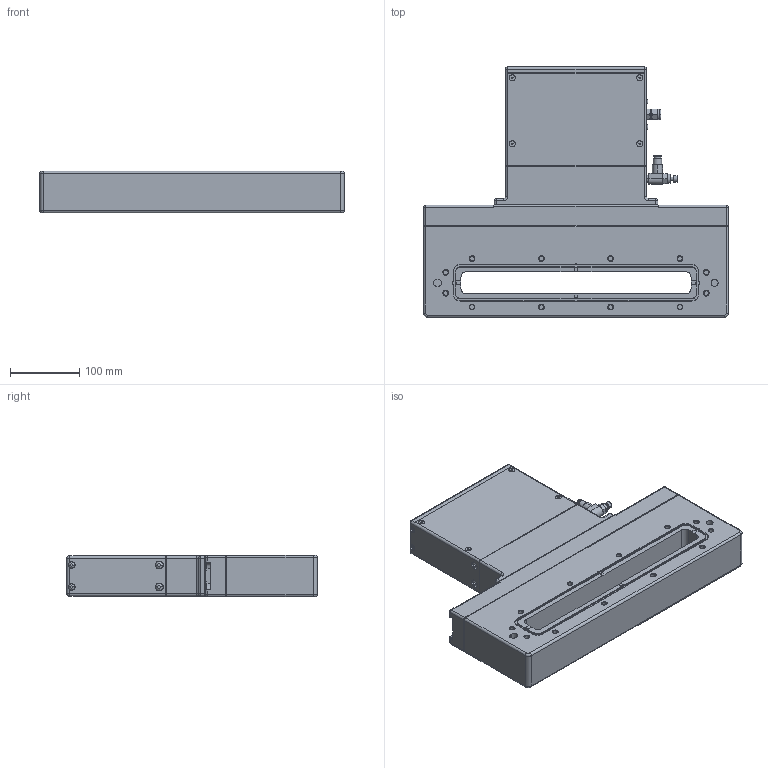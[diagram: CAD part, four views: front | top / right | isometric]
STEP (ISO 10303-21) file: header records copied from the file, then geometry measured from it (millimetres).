
FILE_DESCRIPTION((''),'2;1');
FILE_NAME('28212-0113RXJ','2011-03-02T',('jd'),(''),'PRO/ENGINEER BY PARAMETRIC TECHNOLOGY CORPORATION, 2010280','PRO/ENGINEER BY PARAMETRIC TECHNOLOGY CORPORATION, 2010280','');
FILE_SCHEMA(('CONFIG_CONTROL_DESIGN'));
Length unit declared in the file: inch
Products named in the file (1): 28212-0113RXJ
Bounding box: 440.03 x 362.2 x 59.99 mm (x, y, z)
Volume: 5944945.8 mm3; surface area: 381741.2 mm2
Topology: 1 solids, 25 shells, 1017 faces, 2440 edges, 1548 vertices
Faces by surface type: plane 505, cylinder 292, cone 162, bspline 24, torus 22, sphere 12
Entity records: 31887 total; most frequent: CARTESIAN_POINT 7940, DIRECTION 5146, ORIENTED_EDGE 4776, EDGE_CURVE 2436, AXIS2_PLACEMENT_3D 1936, VERTEX_POINT 1548, VECTOR 1274, LINE 1274
